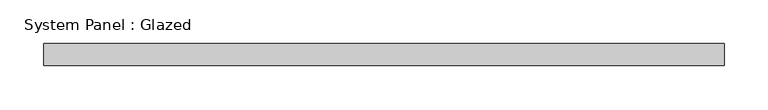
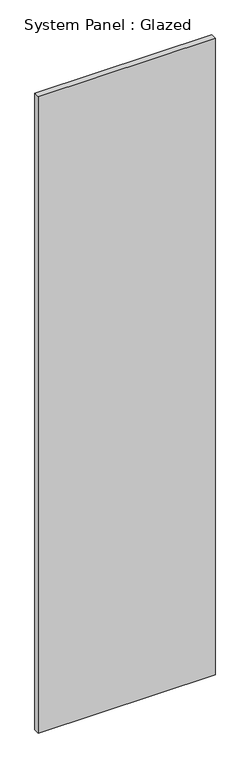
"""IFC4 building model written with IfcOpenShell, lengths in millimetres: plate geometry, System Panel : Glazed."""

from ifc_helpers import new_model, si_unit, origin, origin_with_axes, place, context, project, spatial, polyline, outline, extrude, source, transform, mapped, element, save


def system_panel_glazed_2b3f69d1(model_context):
    return source(origin(), model_context, "Body", "SweptSolid", [
        extrude(outline(polyline([(387.7499999, -49.5), (-387.7499999, -49.5), (-387.7499999, -24.5), (387.7499999, -24.5), (387.7499999, -49.5)])), origin_with_axes(), (0.0, 0.0, 1.0), 2950.0),
    ])


if __name__ == "__main__":
    model = new_model("IFC4")
    model_context = context("Model", 3, world=origin())
    ifc_project = project(units=[si_unit("LENGTHUNIT", "METRE", prefix="MILLI")], contexts=[model_context])
    site = spatial("IfcSite", under=ifc_project)
    building = spatial("IfcBuilding", under=site)
    placement = place(None, origin())
    system_panel_glazed_shape = system_panel_glazed_2b3f69d1(model_context)
    element("IfcPlate", 1, ObjectType="System Panel : Glazed", at=placement, inside=building, context=model_context, shape_type="MappedRepresentation", body=[
        mapped(system_panel_glazed_shape, transform((0.0, 0.0, 0.0), x_axis=(1.0, 0.0, 0.0), y_axis=(0.0, 1.0, 0.0), z_axis=(0.0, 0.0, 1.0))),
    ])
    save(model, "model.ifc")
